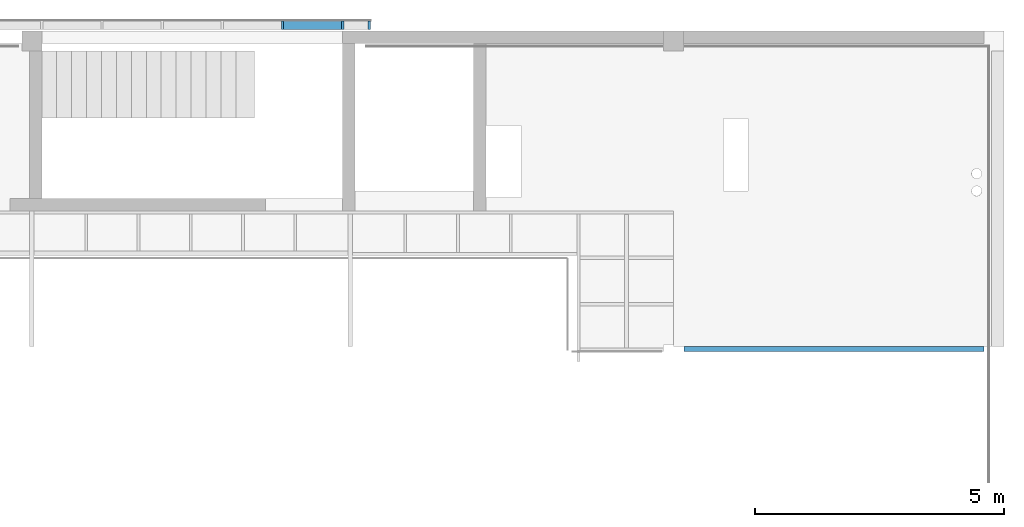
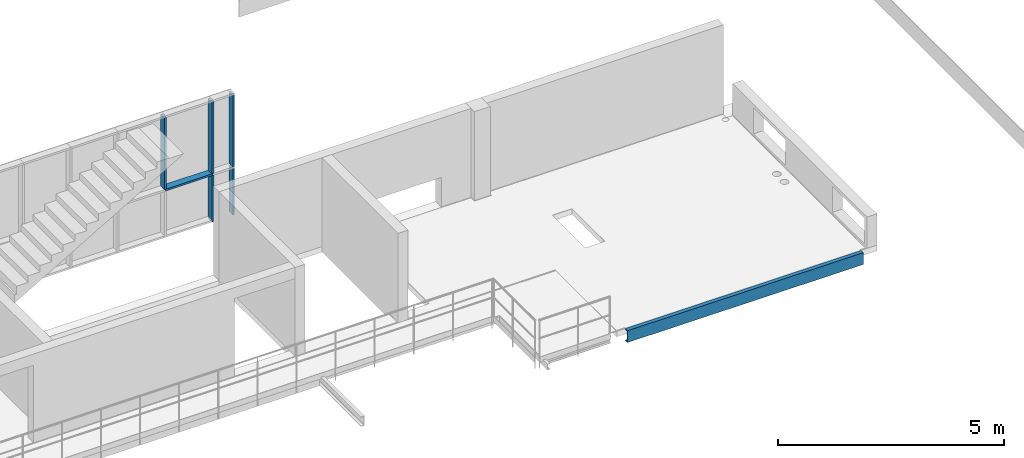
# One storey, part 3 of 8: 6 members, 1 beam, 1 element without a shape of its own.
"""IFC2X3 building model written with IfcOpenShell, lengths in centimetres."""

from ifc_helpers import new_model, entity, si_unit, converted_unit, derived_unit, direction, frame, frame_2d, origin, origin_2d_with_axis, place, context, subcontext, project, spatial, polyline, circle_curve, parameter, trimmed, segment, composite_curve, rectangle, outline, extrude, source, transform, mapped, material, type_object, type_shapes, element, aggregate, save


model = new_model("IFC2X3")

# Units and contexts
model_context = context("Model", 3, precision=0.001, world=origin(), true_north=direction((6.12303176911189e-17, 1.0)))
body_context = subcontext(model_context, "Body", "Model", "MODEL_VIEW")
ifc_project = project(units=[si_unit("LENGTHUNIT", "METRE", prefix="CENTI"), si_unit("AREAUNIT", "SQUARE_METRE"), si_unit("VOLUMEUNIT", "CUBIC_METRE"), converted_unit("PLANEANGLEUNIT", "DEGREE", entity("IfcRatioMeasure", 0.0174532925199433), si_unit("PLANEANGLEUNIT", "RADIAN"), dimensions=[0, 0, 0, 0, 0, 0, 0]), si_unit("MASSUNIT", "GRAM", prefix="KILO"), derived_unit("MASSDENSITYUNIT", [(si_unit("MASSUNIT", "GRAM", prefix="KILO"), 1), (si_unit("LENGTHUNIT", "METRE"), -3)]), derived_unit("MOMENTOFINERTIAUNIT", [(si_unit("LENGTHUNIT", "METRE"), 4)]), si_unit("TIMEUNIT", "SECOND"), si_unit("FREQUENCYUNIT", "HERTZ"), si_unit("THERMODYNAMICTEMPERATUREUNIT", "DEGREE_CELSIUS"), derived_unit("THERMALTRANSMITTANCEUNIT", [(si_unit("MASSUNIT", "GRAM", prefix="KILO"), 1), (si_unit("THERMODYNAMICTEMPERATUREUNIT", "KELVIN"), -1), (si_unit("TIMEUNIT", "SECOND"), -3)]), derived_unit("VOLUMETRICFLOWRATEUNIT", [(si_unit("LENGTHUNIT", "METRE"), 3), (si_unit("TIMEUNIT", "SECOND"), -1)]), si_unit("ELECTRICCURRENTUNIT", "AMPERE"), si_unit("ELECTRICVOLTAGEUNIT", "VOLT"), si_unit("POWERUNIT", "WATT"), si_unit("FORCEUNIT", "NEWTON", prefix="KILO"), si_unit("ILLUMINANCEUNIT", "LUX"), si_unit("LUMINOUSFLUXUNIT", "LUMEN"), si_unit("LUMINOUSINTENSITYUNIT", "CANDELA"), derived_unit("USERDEFINED", [(si_unit("MASSUNIT", "GRAM", prefix="KILO"), -1), (si_unit("LENGTHUNIT", "METRE"), -2), (si_unit("TIMEUNIT", "SECOND"), 3), (si_unit("LUMINOUSFLUXUNIT", "LUMEN"), 1)]), derived_unit("LINEARVELOCITYUNIT", [(si_unit("LENGTHUNIT", "METRE"), 1), (si_unit("TIMEUNIT", "SECOND"), -1)]), si_unit("PRESSUREUNIT", "PASCAL"), derived_unit("USERDEFINED", [(si_unit("LENGTHUNIT", "METRE"), -2), (si_unit("MASSUNIT", "GRAM", prefix="KILO"), 1), (si_unit("TIMEUNIT", "SECOND"), -2)]), derived_unit("LINEARFORCEUNIT", [(si_unit("MASSUNIT", "GRAM", prefix="KILO"), 1), (si_unit("LENGTHUNIT", "METRE"), 1), (si_unit("TIMEUNIT", "SECOND"), -2), (si_unit("LENGTHUNIT", "METRE"), -1)]), derived_unit("PLANARFORCEUNIT", [(si_unit("MASSUNIT", "GRAM", prefix="KILO"), 1), (si_unit("LENGTHUNIT", "METRE"), 1), (si_unit("TIMEUNIT", "SECOND"), -2), (si_unit("LENGTHUNIT", "METRE"), -2)])], contexts=[model_context])

# Site, building, storey
site_placement = place(None, origin())
site = spatial("IfcSite", under=ifc_project, at=site_placement, Name="Default", CompositionType="ELEMENT")
building_placement = place(site_placement, origin())
building = spatial("IfcBuilding", under=site, at=building_placement, CompositionType="ELEMENT")
storey_placement = place(building_placement, frame((0.0, 0.0, 290.0)))
storey = spatial("IfcBuildingStorey", under=building, at=storey_placement, Name="Poziom Antresola +2,90", CompositionType="ELEMENT", Elevation=290.0)

# Beam
ifc_material_1 = material(Name="Stal konstrukcyjna - S235")
beam_type = type_object("IfcBeamType", Name="C:C320", PredefinedType="NOTDEFINED")
beam_placement = place(storey_placement, frame((331.761298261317, 1462.72745194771, 0.0)))
element("IfcBeam", 1, at=beam_placement, inside=storey, type_object=beam_type, material=ifc_material_1, Name="C:C320", ObjectType="C:C320", context=body_context, shape_type="SweptSolid", body=[
    extrude(outline(composite_curve([segment(polyline([(-16.0, -5.60522354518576), (16.0, -5.60522354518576)]), True, "CONTINUOUS"), segment(polyline([(16.0, -5.60522354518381), (16.0, 4.39477645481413)]), True, "CONTINUOUS"), segment(polyline([(16.0, 4.39477645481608), (15.3321676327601, 4.39477645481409)]), True, "CONTINUOUS"), segment(trimmed(circle_curve(frame_2d((15.3321676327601, 3.51977645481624), x_axis=(0.0, 1.0)), 0.874999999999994), [parameter(0.0)], [parameter(87.1400000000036)], True, "PARAMETER"), True, "CONTINUOUS"), segment(polyline([(14.4582575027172, 3.56343518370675), (14.1532156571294, -2.54254100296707)]), True, "CONTINUOUS"), segment(trimmed(circle_curve(frame_2d((12.4053953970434, -2.4552235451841), x_axis=(0.998754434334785, -0.0498956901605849)), 1.75000000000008), [parameter(272.86)], [parameter(0.0)], True, "PARAMETER"), False, "CONTINUOUS"), segment(polyline([(12.4053953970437, -4.20522354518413), (-12.405395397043, -4.20522354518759)]), True, "CONTINUOUS"), segment(trimmed(circle_curve(frame_2d((-12.4053953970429, -2.45522354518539), x_axis=(0.0, -1.0)), 1.75000000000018), [parameter(272.860000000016)], [parameter(0.0)], True, "PARAMETER"), False, "CONTINUOUS"), segment(polyline([(-14.1532156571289, -2.54254100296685), (-14.4582575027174, 3.56343518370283)]), True, "CONTINUOUS"), segment(trimmed(circle_curve(frame_2d((-15.3321676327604, 3.51977645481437), x_axis=(0.998754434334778, 0.0498956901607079)), 0.874999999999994), [parameter(0.0)], [parameter(87.1400000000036)], True, "PARAMETER"), True, "CONTINUOUS"), segment(polyline([(-15.3321676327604, 4.39477645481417), (-16.0, 4.39477645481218)]), True, "CONTINUOUS"), segment(polyline([(-16.0, 4.39477645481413), (-16.0, -5.60522354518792)]), True, "CONTINUOUS")], self_intersect=False)), frame((0.249999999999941, 3.00522354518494, -16.0), z_axis=(1.0, 0.0, 0.0), x_axis=(0.0, 0.0, -1.0)), (0.0, 0.0, 1.0), 603.723592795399),
])

# Curtain wall, members
curtain_wall_type = type_object("IfcCurtainWallType", Name="Ściana osłonowa:SO2", PredefinedType="NOTDEFINED")
curtain_wall_placement = place(storey_placement, frame((0.0, 0.0, -290.0)))
curtain_wall = element("IfcCurtainWall", 2, at=curtain_wall_placement, inside=storey, type_object=curtain_wall_type, Name="Ściana osłonowa:SO2", ObjectType="Ściana osłonowa:SO2")
ifc_material_2 = material(Name="Aluminium")
member_type_1 = type_object("IfcMemberType", Name="Prostokątny szpros:50 x 175mm", PredefinedType="MULLION", material=ifc_material_2)
shared_shape_1 = source(origin(), body_context, "Body", "SweptSolid", [
    extrude(rectangle(XDim=17.5, YDim=5.0, at=origin_2d_with_axis()), frame((-2.5, 0.0, -125.0), z_axis=(0.0, 0.0, 1.0), x_axis=(0.0, -1.0, 0.0)), (0.0, 0.0, 1.0), 125.0),
])
type_shapes(member_type_1, [shared_shape_1])
member_1_placement = place(curtain_wall_placement, frame((-298.265132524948, 2116.37745208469, 432.499988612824), z_axis=(0.0, 0.0, -1.0), x_axis=(1.0, 0.0, 0.0)))
member_1 = element("IfcMember", 3, at=member_1_placement, type_object=member_type_1, Name="Prostokątny szpros:50 x 175mm", ObjectType="Prostokątny szpros:50 x 175mm", context=body_context, shape_type="MappedRepresentation", body=[
    mapped(shared_shape_1, transform((0.0, 0.0, 0.0), scale=1.0)),
])
member_type_2 = type_object("IfcMemberType", Name="Prostokątny szpros:50 x 175mm", PredefinedType="MULLION", material=ifc_material_2)
shared_shape_2 = source(origin(), body_context, "Body", "SweptSolid", [
    extrude(rectangle(XDim=17.5, YDim=5.0, at=origin_2d_with_axis()), frame((0.0, 0.0, -125.0), z_axis=(0.0, 0.0, 1.0), x_axis=(0.0, -1.0, 0.0)), (0.0, 0.0, 1.0), 125.0),
])
type_shapes(member_type_2, [shared_shape_2])
member_2_placement = place(curtain_wall_placement, frame((-354.265132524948, 2116.37745208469, 432.499988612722), z_axis=(0.0, 0.0, -1.0), x_axis=(1.0, 0.0, 0.0)))
member_2 = element("IfcMember", 4, at=member_2_placement, type_object=member_type_2, Name="Prostokątny szpros:50 x 175mm", ObjectType="Prostokątny szpros:50 x 175mm", context=body_context, shape_type="MappedRepresentation", body=[
    mapped(shared_shape_2, transform((0.0, 0.0, 0.0), scale=1.0)),
])
member_type_3 = type_object("IfcMemberType", Name="Prostokątny szpros:50 x 175mm", PredefinedType="MULLION", material=ifc_material_2)
shared_shape_3 = source(origin(), body_context, "Body", "SweptSolid", [
    extrude(rectangle(XDim=17.5, YDim=5.0, at=origin_2d_with_axis()), frame((-2.5, 0.0, -193.500011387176), z_axis=(0.0, 0.0, 1.0), x_axis=(0.0, -1.0, 0.0)), (0.0, 0.0, 1.0), 193.500011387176),
])
type_shapes(member_type_3, [shared_shape_3])
member_3_placement = place(curtain_wall_placement, frame((-298.265132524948, 2116.37745208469, 562.499988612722), z_axis=(0.0, 0.0, -1.0), x_axis=(1.0, 0.0, 0.0)))
member_3 = element("IfcMember", 5, at=member_3_placement, type_object=member_type_3, Name="Prostokątny szpros:50 x 175mm", ObjectType="Prostokątny szpros:50 x 175mm", context=body_context, shape_type="MappedRepresentation", body=[
    mapped(shared_shape_3, transform((0.0, 0.0, 0.0), scale=1.0)),
])
member_type_4 = type_object("IfcMemberType", Name="Prostokątny szpros:50 x 175mm", PredefinedType="MULLION", material=ifc_material_2)
shared_shape_4 = source(origin(), body_context, "Body", "SweptSolid", [
    extrude(rectangle(XDim=17.5, YDim=5.0, at=origin_2d_with_axis()), frame((0.0, 0.0, -121.0), z_axis=(0.0, 0.0, 1.0), x_axis=(0.0, -1.0, 0.0)), (0.0, 0.0, 1.0), 121.0),
])
type_shapes(member_type_4, [shared_shape_4])
member_4_placement = place(curtain_wall_placement, frame((-354.265132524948, 2116.37745208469, 559.999988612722), z_axis=(1.0, 0.0, 0.0), x_axis=(0.0, 0.0, 1.0)))
member_4 = element("IfcMember", 6, at=member_4_placement, type_object=member_type_4, Name="Prostokątny szpros:50 x 175mm", ObjectType="Prostokątny szpros:50 x 175mm", context=body_context, shape_type="MappedRepresentation", body=[
    mapped(shared_shape_4, transform((0.0, 0.0, 0.0), scale=1.0)),
])
member_type_5 = type_object("IfcMemberType", Name="Prostokątny szpros:50 x 175mm", PredefinedType="MULLION", material=ifc_material_2)
shared_shape_5 = source(origin(), body_context, "Body", "SweptSolid", [
    extrude(rectangle(XDim=17.5, YDim=5.0, at=origin_2d_with_axis()), frame((0.0, 0.0, -193.500011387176), z_axis=(0.0, 0.0, 1.0), x_axis=(0.0, -1.0, 0.0)), (0.0, 0.0, 1.0), 193.500011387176),
])
type_shapes(member_type_5, [shared_shape_5])
member_5_placement = place(curtain_wall_placement, frame((-475.265132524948, 2116.37745208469, 562.499988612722), z_axis=(0.0, 0.0, -1.0), x_axis=(1.0, 0.0, 0.0)))
member_5 = element("IfcMember", 7, at=member_5_placement, type_object=member_type_5, Name="Prostokątny szpros:50 x 175mm", ObjectType="Prostokątny szpros:50 x 175mm", context=body_context, shape_type="MappedRepresentation", body=[
    mapped(shared_shape_5, transform((0.0, 0.0, 0.0), scale=1.0)),
])
member_6_placement = place(curtain_wall_placement, frame((-354.265132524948, 2116.37745208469, 562.499988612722), z_axis=(0.0, 0.0, -1.0), x_axis=(1.0, 0.0, 0.0)))
member_6 = element("IfcMember", 8, at=member_6_placement, type_object=member_type_5, Name="Prostokątny szpros:50 x 175mm", ObjectType="Prostokątny szpros:50 x 175mm", context=body_context, shape_type="MappedRepresentation", body=[
    mapped(shared_shape_5, transform((0.0, 0.0, 0.0), scale=1.0)),
])
aggregate(curtain_wall, [member_1, member_2, member_3, member_4, member_5, member_6])

save(model, "model.ifc")
